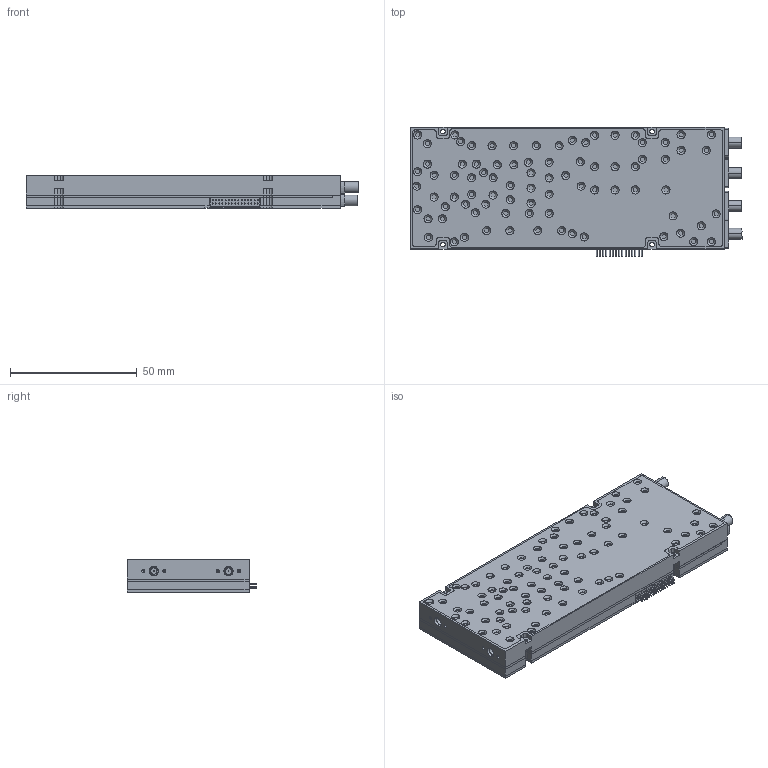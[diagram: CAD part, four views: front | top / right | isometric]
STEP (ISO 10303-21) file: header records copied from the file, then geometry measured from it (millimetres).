
FILE_DESCRIPTION (( 'STEP AP203' ), '1' );
FILE_NAME ('蚾饜极1.STEP', '2026-05-28T14:03:30', ( 'Windows User' ), ( 'P R C' ), 'SwSTEP 2.0', 'SolidWorks 2013', '' );
FILE_SCHEMA (( 'CONFIG_CONTROL_DESIGN' ));
Length unit declared in the file: millimetre
Products named in the file (11): PCB; 俔芛邧齬渀; 裔啣2; NY251638; 裔啣1; 峓遺; 曹け-裔啣; 曹け-褲极; SMP-JFD2; 蚾饜极1; SMP(M)-JYD1-1S
Assembly tree (17 placements, depth 2):
  蚾饜极1
    曹け-褲极
    曹け-裔啣
    NY251638  x4
    SMP-JFD2  x4
    SMP(M)-JYD1-1S  x2
    峓遺
    裔啣1
    裔啣2
    PCB
    俔芛邧齬渀
Bounding box: 131 x 51 x 13 mm (x, y, z)
Volume: 63696 mm3; surface area: 60410.4 mm2
Topology: 17 solids, 17 shells, 1148 faces, 2876 edges, 1825 vertices
Faces by surface type: cylinder 576, plane 320, cone 252
Entity records: 33407 total; most frequent: DIRECTION 5986, CARTESIAN_POINT 5381, ORIENTED_EDGE 5260, EDGE_CURVE 2630, AXIS2_PLACEMENT_3D 2302, VERTEX_POINT 1673, VECTOR 1382, LINE 1382
